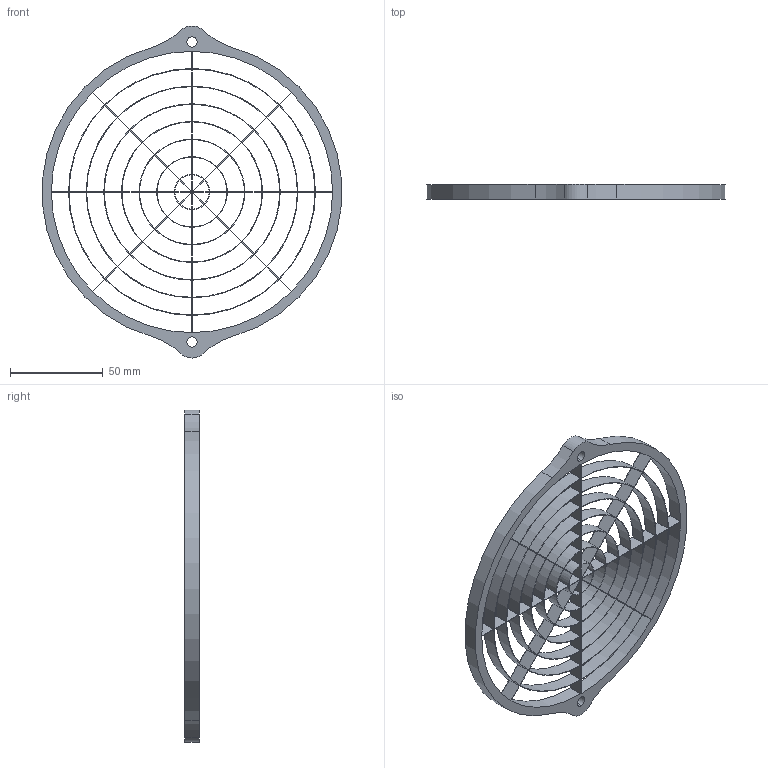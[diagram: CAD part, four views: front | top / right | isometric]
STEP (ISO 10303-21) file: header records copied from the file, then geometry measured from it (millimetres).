
FILE_DESCRIPTION (( 'STEP AP203' ), '1' );
FILE_NAME ('afltr6ld.STEP', '2016-01-04T18:11:13', ( '' ), ( '' ), 'SwSTEP 2.0', 'SolidWorks 2014', '' );
FILE_SCHEMA (( 'CONFIG_CONTROL_DESIGN' ));
Length unit declared in the file: inch
Products named in the file (1): afltr6ld
Bounding box: 161.45 x 7.87 x 179.29 mm (x, y, z)
Volume: 26395.6 mm3; surface area: 50291.7 mm2
Topology: 1 solids, 1 shells, 275 faces, 807 edges, 538 vertices
Faces by surface type: cylinder 141, plane 134
Entity records: 9566 total; most frequent: DIRECTION 1641, CARTESIAN_POINT 1621, ORIENTED_EDGE 1614, EDGE_CURVE 807, AXIS2_PLACEMENT_3D 558, VERTEX_POINT 538, LINE 525, VECTOR 525
